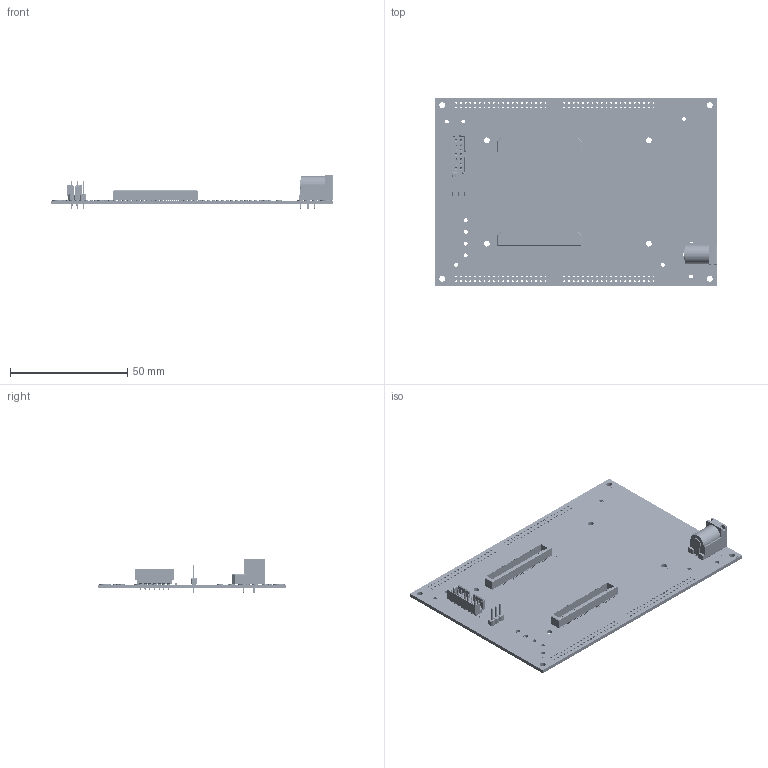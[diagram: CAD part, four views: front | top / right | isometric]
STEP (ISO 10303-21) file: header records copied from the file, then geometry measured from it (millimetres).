
FILE_DESCRIPTION (( 'STEP AP214' ), '1' );
FILE_NAME ('BRK7010.STEP', '2016-10-13T22:02:50', ( '' ), ( '' ), 'SwSTEP 2.0', 'SolidWorks 2016', '' );
FILE_SCHEMA (( 'AUTOMOTIVE_DESIGN' ));
Length unit declared in the file: inch
Products named in the file (8): MC1; BRK7010; J6; J5; C1; *1; PCB; JP1
Assembly tree (7 placements, depth 2):
  BRK7010
    PCB
    C1
    J5
    J6
    JP1
    MC1  x2
  *1
Bounding box: 120 x 80 x 14.82 mm (x, y, z)
Volume: 16896.8 mm3; surface area: 26807.6 mm2
Topology: 578 solids, 578 shells, 7044 faces, 16947 edges, 11080 vertices
Faces by surface type: plane 4980, cylinder 2038, sphere 24, torus 2
Entity records: 244534 total; most frequent: DIRECTION 29111, CARTESIAN_POINT 28006, ORIENTED_EDGE 26794, EDGE_CURVE 13397, AXIS2_PLACEMENT_3D 9895, LINE 9321, VECTOR 9321, VERTEX_POINT 8782
